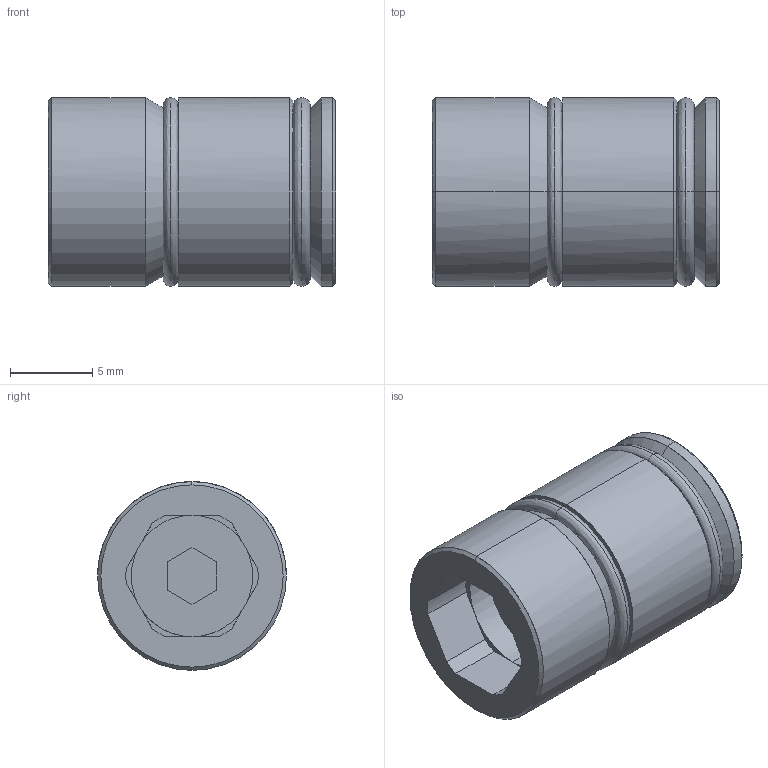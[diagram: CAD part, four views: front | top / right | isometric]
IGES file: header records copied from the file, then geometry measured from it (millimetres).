
Start section: START RECORD GO HERE.
Global section: file name: TRI-11,5.igs; native system: DASSAULT SYSTEMES CATIA V5 R20 - www.3ds.com; preprocessor: CATIA Version 5 Release 20 ; author: Utente; organization: NB04-ASUS; date: 20210222.201216; units: millimetre
Bounding box: 17.5 x 11.5 x 11.5 mm (x, y, z)
Surface area: 1098.3 mm2 (no closed solid volume)
Topology: 0 solids, 0 shells, 56 faces, 304 edges, 304 vertices
Faces by surface type: revolution 32, plane 24
